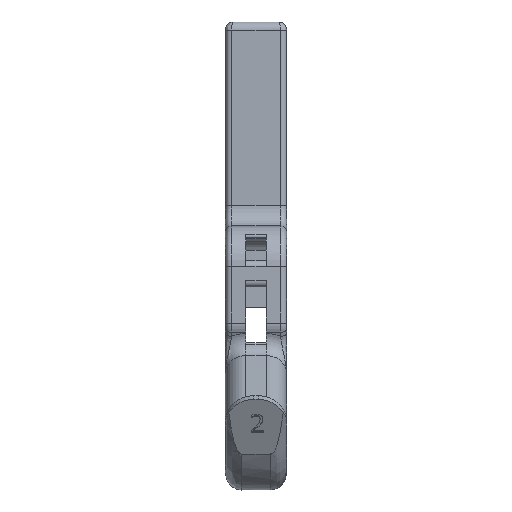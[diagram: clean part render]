
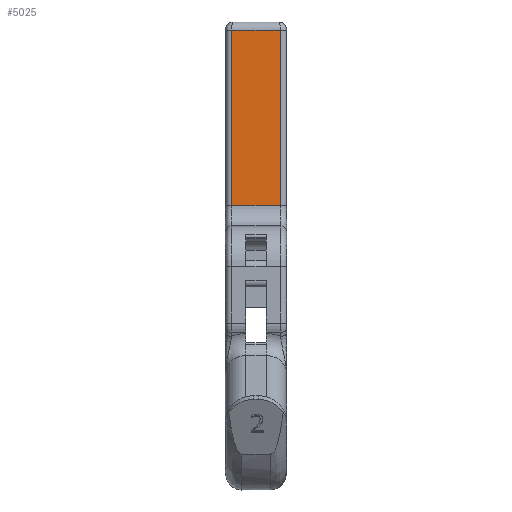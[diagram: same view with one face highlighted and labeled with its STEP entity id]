
A CAD part, front view. The second image highlights one B-rep face of the part: STEP entity #5025.
In plain terms, the highlighted planar face has unit normal (0, -1, 0).
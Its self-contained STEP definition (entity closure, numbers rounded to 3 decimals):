
#111=PLANE('',#5481);
#214=LINE('',#7292,#604);
#478=LINE('',#9712,#868);
#481=LINE('',#9800,#871);
#482=LINE('',#9801,#872);
#604=VECTOR('',#5725,10.);
#868=VECTOR('',#6579,90.);
#871=VECTOR('',#6612,24.);
#872=VECTOR('',#6613,90.);
#1267=FACE_OUTER_BOUND('',#1563,.T.);
#1563=EDGE_LOOP('',(#4208,#4209,#4210,#4211));
#2043=VERTEX_POINT('',#7186);
#2045=VERTEX_POINT('',#7226);
#2391=VERTEX_POINT('',#9710);
#2395=VERTEX_POINT('',#9799);
#2540=EDGE_CURVE('',#2043,#2045,#214,.T.);
#3046=EDGE_CURVE('',#2391,#2043,#478,.T.);
#3058=EDGE_CURVE('',#2395,#2391,#481,.T.);
#3059=EDGE_CURVE('',#2045,#2395,#482,.T.);
#4208=ORIENTED_EDGE('',*,*,#2540,.F.);
#4209=ORIENTED_EDGE('',*,*,#3046,.F.);
#4210=ORIENTED_EDGE('',*,*,#3058,.F.);
#4211=ORIENTED_EDGE('',*,*,#3059,.F.);
#5025=ADVANCED_FACE('',(#1267),#111,.T.);
#5481=AXIS2_PLACEMENT_3D('',#9798,#6610,#6611);
#5725=DIRECTION('',(1.,0.,0.));
#6579=DIRECTION('',(0.,0.,1.));
#6610=DIRECTION('center_axis',(0.,-1.,0.));
#6611=DIRECTION('ref_axis',(0.,0.,-1.));
#6612=DIRECTION('',(-1.,0.,0.));
#6613=DIRECTION('',(0.,0.,-1.));
#7186=CARTESIAN_POINT('',(-12.,-40.,-24.));
#7226=CARTESIAN_POINT('',(12.,-40.,-24.));
#7292=CARTESIAN_POINT('',(0.,-40.,-24.));
#9710=CARTESIAN_POINT('',(-12.,-40.,-110.));
#9712=CARTESIAN_POINT('',(-12.,-40.,-110.));
#9798=CARTESIAN_POINT('Origin',(0.,-40.,-120.));
#9799=CARTESIAN_POINT('',(12.,-40.,-110.));
#9800=CARTESIAN_POINT('',(12.,-40.,-110.));
#9801=CARTESIAN_POINT('',(12.,-40.,-20.));
